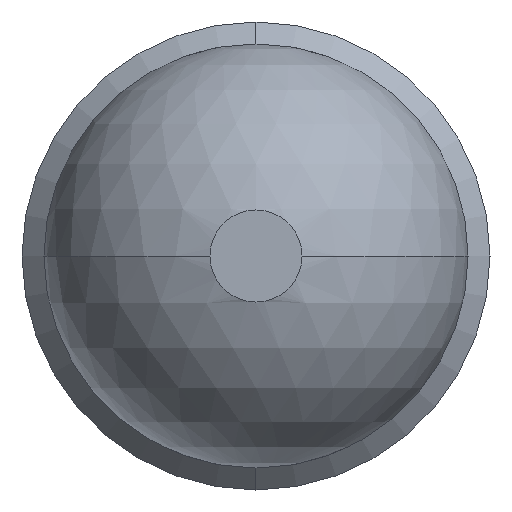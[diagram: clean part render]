
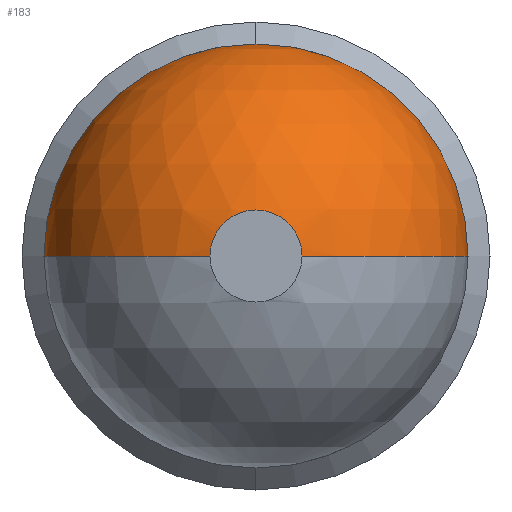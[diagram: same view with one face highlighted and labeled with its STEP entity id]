
A CAD part, left-side view. The second image highlights one B-rep face of the part: STEP entity #183.
In plain terms, the highlighted spherical face has radius 11.51 mm.
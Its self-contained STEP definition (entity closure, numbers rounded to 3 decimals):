
#10 = DIRECTION ( 'NONE',  ( 0., 0., 1. ) ) ;
#14 = EDGE_CURVE ( 'NONE', #223, #222, #109, .T. ) ;
#19 = CARTESIAN_POINT ( 'NONE',  ( 0., 2.5, 0. ) ) ;
#30 = DIRECTION ( 'NONE',  ( 0., 1., 0. ) ) ;
#33 = CIRCLE ( 'NONE', #281, 11.51 ) ;
#43 = CARTESIAN_POINT ( 'NONE',  ( 0., 0., 0. ) ) ;
#50 = CARTESIAN_POINT ( 'NONE',  ( 11.235, 0., 11.51 ) ) ;
#57 = EDGE_CURVE ( 'NONE', #137, #273, #59, .T. ) ;
#59 = CIRCLE ( 'NONE', #148, 11.51 ) ;
#61 = CARTESIAN_POINT ( 'NONE',  ( 11.235, 0., 0. ) ) ;
#66 = DIRECTION ( 'NONE',  ( 0., 0., 1. ) ) ;
#90 = CIRCLE ( 'NONE', #255, 11.51 ) ;
#92 = ORIENTED_EDGE ( 'NONE', *, *, #124, .F. ) ;
#105 = CARTESIAN_POINT ( 'NONE',  ( 11.235, 0., 0. ) ) ;
#106 = AXIS2_PLACEMENT_3D ( 'NONE', #43, #239, #66 ) ;
#109 = CIRCLE ( 'NONE', #106, 2.5 ) ;
#113 = SPHERICAL_SURFACE ( 'NONE', #244, 11.51 ) ;
#121 = EDGE_LOOP ( 'NONE', ( #92, #240, #361, #186, #319 ) ) ;
#124 = EDGE_CURVE ( 'NONE', #344, #223, #348, .T. ) ;
#134 = DIRECTION ( 'NONE',  ( 1., 0., 0. ) ) ;
#135 = DIRECTION ( 'NONE',  ( 0., 0., -1. ) ) ;
#137 = VERTEX_POINT ( 'NONE', #50 ) ;
#148 = AXIS2_PLACEMENT_3D ( 'NONE', #326, #154, #363 ) ;
#149 = AXIS2_PLACEMENT_3D ( 'NONE', #61, #253, #30 ) ;
#154 = DIRECTION ( 'NONE',  ( -1., 0., 0. ) ) ;
#176 = DIRECTION ( 'NONE',  ( -1., 0., 0. ) ) ;
#183 = ADVANCED_FACE ( 'NONE', ( #263 ), #113, .T. ) ;
#186 = ORIENTED_EDGE ( 'NONE', *, *, #208, .T. ) ;
#208 = EDGE_CURVE ( 'NONE', #273, #222, #33, .T. ) ;
#222 = VERTEX_POINT ( 'NONE', #19 ) ;
#223 = VERTEX_POINT ( 'NONE', #362 ) ;
#239 = DIRECTION ( 'NONE',  ( -1., 0., 0. ) ) ;
#240 = ORIENTED_EDGE ( 'NONE', *, *, #354, .T. ) ;
#244 = AXIS2_PLACEMENT_3D ( 'NONE', #301, #135, #339 ) ;
#252 = CARTESIAN_POINT ( 'NONE',  ( 11.235, 11.51, 0. ) ) ;
#253 = DIRECTION ( 'NONE',  ( 0., 0., -1. ) ) ;
#255 = AXIS2_PLACEMENT_3D ( 'NONE', #356, #176, #10 ) ;
#263 = FACE_OUTER_BOUND ( 'NONE', #121, .T. ) ;
#273 = VERTEX_POINT ( 'NONE', #252 ) ;
#281 = AXIS2_PLACEMENT_3D ( 'NONE', #105, #300, #134 ) ;
#297 = CARTESIAN_POINT ( 'NONE',  ( 11.235, -11.51, 0. ) ) ;
#300 = DIRECTION ( 'NONE',  ( 0., 0., 1. ) ) ;
#301 = CARTESIAN_POINT ( 'NONE',  ( 11.235, 0., 0. ) ) ;
#319 = ORIENTED_EDGE ( 'NONE', *, *, #14, .F. ) ;
#326 = CARTESIAN_POINT ( 'NONE',  ( 11.235, 0., 0. ) ) ;
#339 = DIRECTION ( 'NONE',  ( 0., 1., 0. ) ) ;
#344 = VERTEX_POINT ( 'NONE', #297 ) ;
#348 = CIRCLE ( 'NONE', #149, 11.51 ) ;
#354 = EDGE_CURVE ( 'NONE', #344, #137, #90, .T. ) ;
#356 = CARTESIAN_POINT ( 'NONE',  ( 11.235, 0., 0. ) ) ;
#361 = ORIENTED_EDGE ( 'NONE', *, *, #57, .T. ) ;
#362 = CARTESIAN_POINT ( 'NONE',  ( 0., -2.5, 0. ) ) ;
#363 = DIRECTION ( 'NONE',  ( 0., 0., 1. ) ) ;
